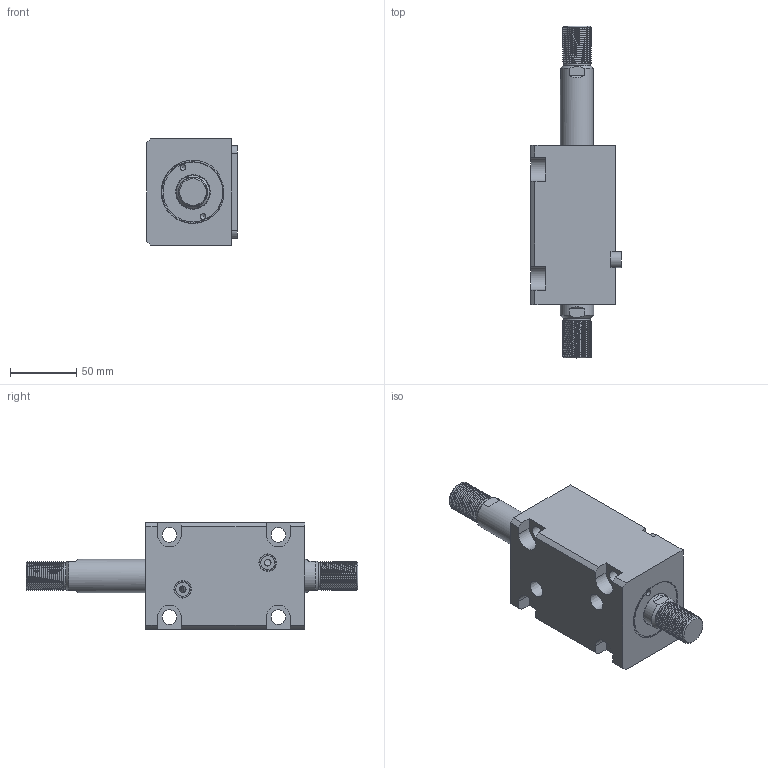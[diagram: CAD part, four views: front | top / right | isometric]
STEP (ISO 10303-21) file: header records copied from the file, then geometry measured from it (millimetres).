
FILE_DESCRIPTION(/* description */ (''),/* implementation_level */ '2;1');
FILE_NAME(/* name */ 'CHTB-lw40x50w.stp',/* time_stamp */ '2022-04-29T17:34:35+08:00',/* author */ (''),/* organization */ (''),/* preprocessor_version */ 'ST-DEVELOPER v16.7',/* originating_system */ 'SIEMENS PLM Software NX 12.0',/* authorisation */ '');
FILE_SCHEMA (('AUTOMOTIVE_DESIGN { 1 0 10303 214 3 1 1 1 }'));
Length unit declared in the file: millimetre
Products named in the file (1): CHTB-lw40x50w
Bounding box: 68.5 x 250 x 80 mm (x, y, z)
Volume: 595250.1 mm3; surface area: 105589.3 mm2
Topology: 4 solids, 4 shells, 487 faces, 1464 edges, 1026 vertices
Faces by surface type: plane 331, extrusion 84, cylinder 43, torus 10, bspline 10, cone 9
Full cylindrical faces by diameter (mm): 4.2 x2, 5 x2, 10.7 x2, 11 x4, 20 x2, 25 x4, 29 x1, 34 x2, 40 x4, 45 x1
Entity records: 26499 total; most frequent: CARTESIAN_POINT 11732, ORIENTED_EDGE 2796, DIRECTION 2006, EDGE_CURVE 1398, VECTOR 1012, VERTEX_POINT 1007, LINE 928, EDGE_LOOP 589
